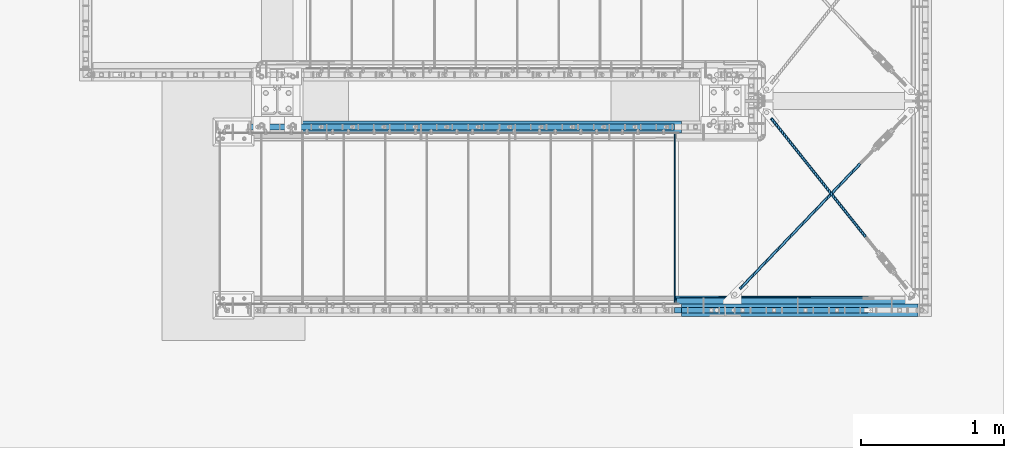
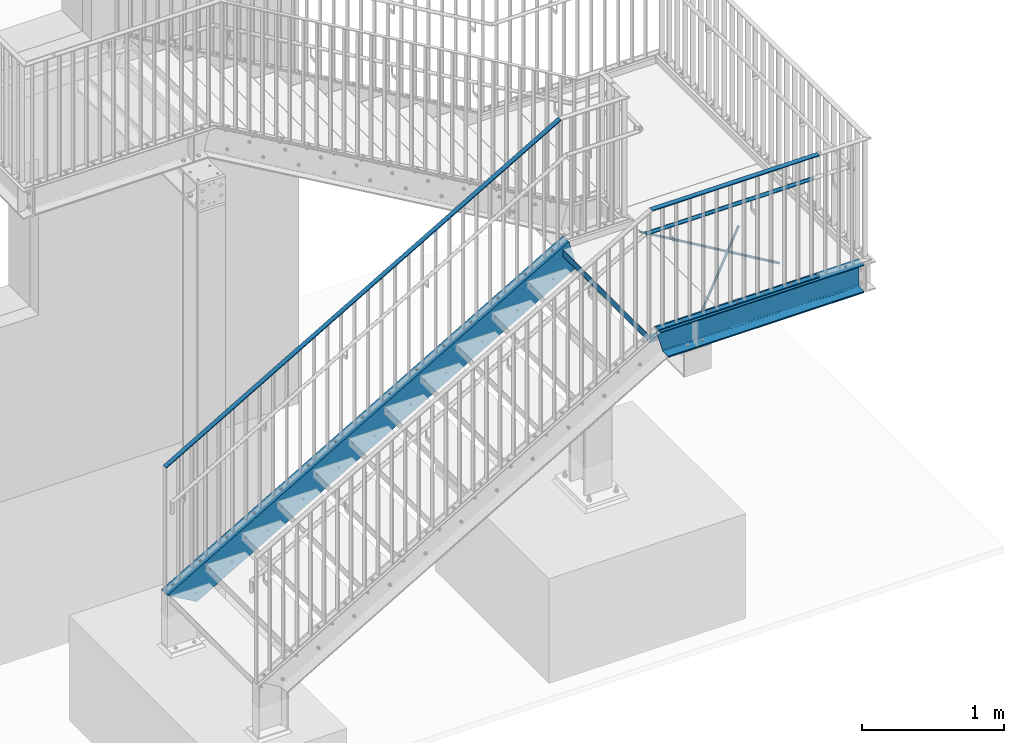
# One storey, part 15 of 145: 8 beams, 2 members, 51 openings.
"""IFC2X3 building model written with IfcOpenShell, lengths in millimetres."""

import ifcopenshell
import ifcopenshell.guid

model = None  # the IFC model being written
_history = None  # IfcOwnerHistory: only IFC2X3 demands one
_inside = {}  # id of a spatial element -> (the spatial element, [elements in it])
_under = {}  # id of a project, library or spatial element -> (it, [spatial elements below it])
_declared = {}  # id of a project -> (the project, [libraries it declares])
_typed = {}  # id of a type object -> (the type object, [elements of that type])
_made_of = {}  # id of a material, layer set ... -> (it, [elements and type objects made of it])


def new_model(schema):
    """Start an empty IFC model of exactly this schema.

    Asked for "IFC4X3", IfcOpenShell would pick the latest addendum, in which some entities
    have other attributes; the version numbers below select the first issue.
    IFC2X3 requires an IfcOwnerHistory on every rooted entity: one is made here for all.
    """
    global model, _history
    if schema == "IFC4X3":
        model = ifcopenshell.file(schema_version=(4, 3, 0, 0))
    else:
        model = ifcopenshell.file(schema=schema)
    _inside.clear()
    _under.clear()
    _declared.clear()
    _typed.clear()
    _made_of.clear()
    _history = None
    if model.schema == "IFC2X3":
        org = make("IfcOrganization", Name="unknown")
        user = make(
            "IfcPersonAndOrganization",
            ThePerson=make("IfcPerson", FamilyName="unknown"),
            TheOrganization=org,
        )
        app = make(
            "IfcApplication",
            ApplicationDeveloper=org,
            Version="unknown",
            ApplicationFullName="unknown",
            ApplicationIdentifier="unknown",
        )
        _history = make(
            "IfcOwnerHistory",
            OwningUser=user,
            OwningApplication=app,
            ChangeAction="ADDED",
            CreationDate=0,
        )
    return model


def make(cls, **values):
    """One entity of the class cls with the attributes given. An attribute that is None is left unset."""
    return model.create_entity(
        cls, **{name: value for name, value in values.items() if value is not None}
    )


def entity(cls, *values):
    """Any entity or typed value of the class cls, its attributes in the order of the schema. None: left unset."""
    e = model.create_entity(cls)
    for i, value in enumerate(values):
        if value is not None:
            e[i] = value
    return e


def rooted(cls, **values):
    """An entity with a GlobalId (a new one), such as an element, a storey or a relation."""
    return make(cls, GlobalId=ifcopenshell.guid.new(), OwnerHistory=_history, **values)


def si_unit(unit_type, name, prefix=None):
    """IfcSIUnit, for example si_unit("LENGTHUNIT", "METRE", prefix="MILLI")."""
    return make("IfcSIUnit", UnitType=unit_type, Prefix=prefix, Name=name)


def converted_unit(unit_type, name, factor, base, dimensions=None, offset=None):
    """IfcConversionBasedUnit, such as the inch: factor (a typed value) times the base unit."""
    return make(
        "IfcConversionBasedUnit"
        if offset is None
        else "IfcConversionBasedUnitWithOffset",
        ConversionOffset=offset,
        Dimensions=None
        if dimensions is None
        else entity("IfcDimensionalExponents", *dimensions),
        UnitType=unit_type,
        Name=name,
        ConversionFactor=make(
            "IfcMeasureWithUnit", ValueComponent=factor, UnitComponent=base
        ),
    )


def assignment(units):
    """IfcUnitAssignment: the units of a project."""
    return None if units is None else make("IfcUnitAssignment", Units=units)


def point(xyz):
    """IfcCartesianPoint."""
    return None if xyz is None else make("IfcCartesianPoint", Coordinates=xyz)


def direction(xyz):
    """IfcDirection."""
    return None if xyz is None else make("IfcDirection", DirectionRatios=xyz)


def frame(location, z_axis=None, x_axis=None):
    """IfcAxis2Placement3D, a coordinate frame: its origin and axes. An axis left out is left unset."""
    return make(
        "IfcAxis2Placement3D",
        Location=point(location),
        Axis=direction(z_axis),
        RefDirection=direction(x_axis),
    )


def frame_2d(location, x_axis=None):
    """IfcAxis2Placement2D, a coordinate frame in the plane: its origin and x axis."""
    return make(
        "IfcAxis2Placement2D", Location=point(location), RefDirection=direction(x_axis)
    )


def origin():
    """The frame at (0, 0, 0) with its axes left unset."""
    return frame((0.0, 0.0, 0.0))


def origin_with_axes():
    """The frame at (0, 0, 0) with the z axis (0, 0, 1) and the x axis (1, 0, 0) written out."""
    return frame((0.0, 0.0, 0.0), z_axis=(0.0, 0.0, 1.0), x_axis=(1.0, 0.0, 0.0))


def origin_2d():
    """The frame at (0, 0) in the plane with its x axis left unset."""
    return frame_2d((0.0, 0.0))


def origin_2d_with_axis():
    """The frame at (0, 0) in the plane with the x axis (1, 0) written out."""
    return frame_2d((0.0, 0.0), x_axis=(1.0, 0.0))


def place(relative_to, where):
    """IfcLocalPlacement: puts the frame where relative to a parent placement (None: the world)."""
    return make(
        "IfcLocalPlacement", PlacementRelTo=relative_to, RelativePlacement=where
    )


def context(
    kind, dimensions, precision=None, world=None, true_north=None, identifier=None
):
    """IfcGeometricRepresentationContext, for example the 3D "Model" context."""
    return make(
        "IfcGeometricRepresentationContext",
        ContextIdentifier=identifier,
        ContextType=kind,
        CoordinateSpaceDimension=dimensions,
        Precision=precision,
        WorldCoordinateSystem=world,
        TrueNorth=true_north,
    )


def project(units=None, contexts=None):
    """IfcProject with its units and contexts."""
    return rooted(
        "IfcProject",
        Name="project",
        RepresentationContexts=contexts,
        UnitsInContext=assignment(units),
    )


def spatial(cls, under=None, at=None, **own):
    """A site, building, storey or space (cls), placed at a placement, below another one or the project."""
    s = rooted(cls, ObjectPlacement=at, **own)
    if under is not None:
        _under.setdefault(under.id(), (under, []))[1].append(s)
    return s


def polyline(points):
    """IfcPolyline through the points."""
    return make("IfcPolyline", Points=[point(p) for p in points])


def profile(cls, at=None, kind="AREA", **sizes):
    """A parametric profile (cls). Its sizes go by their IFC names, for example OverallWidth=200.0."""
    return make(cls, ProfileType=kind, Position=at, **sizes)


def rectangle(**sizes):
    """IfcRectangleProfileDef."""
    return profile("IfcRectangleProfileDef", **sizes)


def circle(**sizes):
    """IfcCircleProfileDef."""
    return profile("IfcCircleProfileDef", **sizes)


def hollow_circle(**sizes):
    """IfcCircleHollowProfileDef."""
    return profile("IfcCircleHollowProfileDef", **sizes)


def l_section(**sizes):
    """IfcLShapeProfileDef."""
    return profile("IfcLShapeProfileDef", **sizes)


def u_section(**sizes):
    """IfcUShapeProfileDef."""
    return profile("IfcUShapeProfileDef", **sizes)


def outline(outer, holes=None, kind="AREA"):
    """IfcArbitraryClosedProfileDef: a profile drawn as a closed curve; with holes, ...WithVoids."""
    if holes is None:
        return make("IfcArbitraryClosedProfileDef", ProfileType=kind, OuterCurve=outer)
    return make(
        "IfcArbitraryProfileDefWithVoids",
        ProfileType=kind,
        OuterCurve=outer,
        InnerCurves=holes,
    )


def extrude(swept, where, along, depth):
    """IfcExtrudedAreaSolid: the profile swept, set in the frame where, extruded along a direction by depth."""
    return make(
        "IfcExtrudedAreaSolid",
        SweptArea=swept,
        Position=where,
        ExtrudedDirection=direction(along),
        Depth=depth,
    )


def clip(a, b, op="DIFFERENCE"):
    """IfcBooleanClippingResult: the solid a cut by the half space b."""
    return make(
        "IfcBooleanClippingResult", Operator=op, FirstOperand=a, SecondOperand=b
    )


def halfspace(plane, agree):
    """IfcHalfSpaceSolid: all space on one side of the plane z = 0 of the frame plane."""
    return make(
        "IfcHalfSpaceSolid",
        BaseSurface=make("IfcPlane", Position=plane),
        AgreementFlag=agree,
    )


def shape(context_of_items, identifier, shape_type, items):
    """IfcShapeRepresentation: the items that make up one representation, for example the "Body"."""
    return make(
        "IfcShapeRepresentation",
        ContextOfItems=context_of_items,
        RepresentationIdentifier=identifier,
        RepresentationType=shape_type,
        Items=items,
    )


def material(Name=None, Category=None):
    """IfcMaterial."""
    return make("IfcMaterial", Name=Name, Category=Category)


def made_of(thing, what):
    """Note that an element or type object is made of a material, layer set ...; save() writes the relation."""
    if what is not None:
        _made_of.setdefault(what.id(), (what, []))[1].append(thing)
    return thing


def element(
    cls,
    number,
    at=None,
    inside=None,
    cuts=None,
    type_object=None,
    material=None,
    context=None,
    identifier="Body",
    shape_type=None,
    held_by="IfcProductDefinitionShape",
    body=None,
    shapes=None,
    **own,
):
    """One element of the class cls, such as IfcWall. Its Tag is "e" and its number.

    at: its placement. inside: the storey or other place that contains it. cuts: it is an
    opening in that element (IfcRelVoidsElement). A single representation is given by context,
    identifier, shape_type and body (its items); several are given by shapes. held_by: the class
    of the entity that holds the representations. save() writes the other relations.
    """
    e = rooted(cls, Tag="e%d" % number, ObjectPlacement=at, **own)
    if body is not None:
        shapes = [shape(context, identifier, shape_type, body)]
    if shapes is not None:
        e.Representation = make(held_by, Representations=shapes)
    if inside is not None:
        _inside.setdefault(inside.id(), (inside, []))[1].append(e)
    if cuts is not None:
        rooted(
            "IfcRelVoidsElement", RelatingBuildingElement=cuts, RelatedOpeningElement=e
        )
    if type_object is not None:
        _typed.setdefault(type_object.id(), (type_object, []))[1].append(e)
    return made_of(e, material)


def aggregate(whole, parts):
    """IfcRelAggregates: a whole, such as a stair, and the parts it consists of."""
    return rooted("IfcRelAggregates", RelatingObject=whole, RelatedObjects=parts)


def save(model, path):
    """Write the relations noted so far, then the file.

    IfcRelAggregates (storeys below a building ...), IfcRelContainedInSpatialStructure (elements
    in a storey), IfcRelDefinesByType, IfcRelAssociatesMaterial and IfcRelDeclares: one each for
    every whole, place, type object, material and project.
    """
    for whole, parts in _under.values():
        aggregate(whole, parts)
    for where, things in _inside.values():
        rooted(
            "IfcRelContainedInSpatialStructure",
            RelatedElements=things,
            RelatingStructure=where,
        )
    for kind, things in _typed.values():
        rooted("IfcRelDefinesByType", RelatedObjects=things, RelatingType=kind)
    for what, things in _made_of.values():
        rooted("IfcRelAssociatesMaterial", RelatedObjects=things, RelatingMaterial=what)
    for by, libraries in _declared.values():
        rooted("IfcRelDeclares", RelatingContext=by, RelatedDefinitions=libraries)
    model.write(path)


model = new_model("IFC2X3")

# Units and contexts
model_context = context("Model", 3, precision=1e-09, world=origin_with_axes())
ifc_project = project(units=[si_unit("LENGTHUNIT", "METRE", prefix="MILLI"), si_unit("AREAUNIT", "SQUARE_METRE"), si_unit("VOLUMEUNIT", "CUBIC_METRE"), converted_unit("PLANEANGLEUNIT", "DEGREE", entity("IfcPlaneAngleMeasure", 0.01745329), si_unit("PLANEANGLEUNIT", "RADIAN"), dimensions=[0, 0, 0, 0, 0, 0, 0])], contexts=[model_context])

# Site, building, storey
site_placement = place(None, origin_with_axes())
site = spatial("IfcSite", under=ifc_project, at=site_placement, Name="BZ1 Grund- und Mittelschule 85716 Unterschlei?heim", CompositionType="ELEMENT")
building_placement = place(site_placement, origin_with_axes())
building = spatial("IfcBuilding", under=site, at=building_placement, Name="Struktur 1", CompositionType="ELEMENT")
storey_placement = place(building_placement, origin_with_axes())
storey = spatial("IfcBuildingStorey", under=building, at=storey_placement, Name="Default Storey", CompositionType="ELEMENT", Elevation=0.0)

# Beams
ifc_material_1 = material(Name="S235JR")
beam_1_placement = place(None, frame((21156.772425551, -2135.739882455, 1438.6363644), z_axis=(0.692926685, 0.721008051, 0.0), x_axis=(-0.721008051, 0.692926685, 0.0)))
element("IfcBeam", 1, at=beam_1_placement, inside=storey, material=ifc_material_1, Name="-", ObjectType="-", context=model_context, shape_type="SweptSolid", body=[
    extrude(circle(Radius=10.0, at=origin_2d()), origin(), (0.0, 0.0, -1.0), 1218.597548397),
])
beam_2_placement = place(None, frame((21195.182131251, -2648.355128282, 1418.6363644), z_axis=(-0.623020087, 0.782205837, 0.0), x_axis=(-0.782205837, -0.623020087, 0.0)))
element("IfcBeam", 2, at=beam_2_placement, inside=storey, material=ifc_material_1, Name="-", ObjectType="-", context=model_context, shape_type="SweptSolid", body=[
    extrude(circle(Radius=10.0, at=origin_2d()), origin(), (0.0, 0.0, 1.0), 1063.779710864),
])
beam_3_placement = place(None, frame((19834.499463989, -3162.502, 2659.6363644), z_axis=(-1.0, 0.0, 0.0), x_axis=(0.0, 0.0, -1.0)))
element("IfcBeam", 3, at=beam_3_placement, inside=storey, material=ifc_material_1, Name="-", ObjectType="-", context=model_context, shape_type="Clipping", body=[
    clip(extrude(rectangle(XDim=8.0, YDim=40.0, at=origin_2d()), origin(), (0.0, 0.0, -1.0), 1378.046429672), halfspace(frame((-2511.22209615, -3162.502, 655.941852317), z_axis=(-0.260320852, 0.0, -0.965522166), x_axis=(0.0, -1.0, 0.0)), True)),
])

# Beam, openings
beam_4_placement = place(None, frame((19883.932827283, -3162.502, 1617.636364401), z_axis=(-1.0, 0.0, 0.0), x_axis=(0.0, 0.0, -1.0)))
beam_4 = element("IfcBeam", 4, at=beam_4_placement, inside=storey, material=ifc_material_1, Name="-", ObjectType="-", context=model_context, shape_type="Clipping", body=[
    clip(extrude(rectangle(XDim=8.0, YDim=40.0, at=origin_2d()), origin(), (0.0, 0.0, -1.0), 1328.613066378), halfspace(frame((-3495.033794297, -3162.502, 921.193866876), z_axis=(-0.260320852, 0.0, -0.965522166), x_axis=(0.0, -1.0, 0.0)), True)),
])
opening_1_placement = place(beam_4_placement, frame((4.5, 0.0, -229.613066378), z_axis=(-1.0, 0.0, 0.0), x_axis=(0.0, 0.0, -1.0)))
element("IfcOpeningElement", 5, at=opening_1_placement, cuts=beam_4, ObjectType="Opening", context=model_context, shape_type="SweptSolid", body=[
    extrude(circle(Radius=7.501, at=origin_2d_with_axis()), origin(), (0.0, 0.0, 1.0), 9.0),
])
opening_2_placement = place(beam_4_placement, frame((4.5, 0.0, -449.613066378), z_axis=(-1.0, 0.0, 0.0), x_axis=(0.0, 0.0, -1.0)))
element("IfcOpeningElement", 6, at=opening_2_placement, cuts=beam_4, ObjectType="Opening", context=model_context, shape_type="SweptSolid", body=[
    extrude(circle(Radius=7.501, at=origin_2d_with_axis()), origin(), (0.0, 0.0, 1.0), 9.0),
])
opening_3_placement = place(beam_4_placement, frame((4.5, 0.0, -669.613066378), z_axis=(-1.0, 0.0, 0.0), x_axis=(0.0, 0.0, -1.0)))
element("IfcOpeningElement", 7, at=opening_3_placement, cuts=beam_4, ObjectType="Opening", context=model_context, shape_type="SweptSolid", body=[
    extrude(circle(Radius=7.501, at=origin_2d_with_axis()), origin(), (0.0, 0.0, 1.0), 9.0),
])
opening_4_placement = place(beam_4_placement, frame((4.5, 0.0, -889.613066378), z_axis=(-1.0, 0.0, 0.0), x_axis=(0.0, 0.0, -1.0)))
element("IfcOpeningElement", 8, at=opening_4_placement, cuts=beam_4, ObjectType="Opening", context=model_context, shape_type="SweptSolid", body=[
    extrude(circle(Radius=7.501, at=origin_2d_with_axis()), origin(), (0.0, 0.0, 1.0), 9.0),
])
opening_5_placement = place(beam_4_placement, frame((4.5, 0.0, -1109.613066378), z_axis=(-1.0, 0.0, 0.0), x_axis=(0.0, 0.0, -1.0)))
element("IfcOpeningElement", 9, at=opening_5_placement, cuts=beam_4, ObjectType="Opening", context=model_context, shape_type="SweptSolid", body=[
    extrude(circle(Radius=7.501, at=origin_2d_with_axis()), origin(), (0.0, 0.0, 1.0), 9.0),
])
opening_6_placement = place(beam_4_placement, frame((4.5, 0.0, -1329.613066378), z_axis=(-1.0, 0.0, 0.0), x_axis=(0.0, 0.0, -1.0)))
element("IfcOpeningElement", 10, at=opening_6_placement, cuts=beam_4, ObjectType="Opening", context=model_context, shape_type="SweptSolid", body=[
    extrude(circle(Radius=7.501, at=origin_2d_with_axis()), origin(), (0.0, 0.0, 1.0), 9.0),
])

# Beam
ifc_material_2 = material(Name="1.4301")
beam_5_placement = place(None, frame((19836.61894234, -3077.502, 2398.636364), z_axis=(-1.0, 0.0, 0.0), x_axis=(0.0, 0.0, -1.0)))
element("IfcBeam", 11, at=beam_5_placement, inside=storey, material=ifc_material_2, Name="-", ObjectType="-", context=model_context, shape_type="Clipping", body=[
    clip(extrude(hollow_circle(Radius=15.0, WallThickness=2.0, at=origin_2d()), origin(), (0.0, 0.0, -1.0), 1376.92695132), halfspace(frame((-2755.280359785, -3077.502, 720.897719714), z_axis=(-0.260320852, 0.0, -0.965522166), x_axis=(0.0, -1.0, 0.0)), True)),
])

# Member, openings
member_1_placement = place(None, frame((16593.104863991, -1897.702, -451.720644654), z_axis=(-0.864466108, 0.0, -0.502691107), x_axis=(0.0, 1.0, 0.0)))
member_1 = element("IfcMember", 12, at=member_1_placement, inside=storey, material=ifc_material_1, Name="-", ObjectType="-", context=model_context, shape_type="Clipping", body=[
    clip(clip(extrude(u_section(Depth=240.0, FlangeWidth=85.0, WebThickness=9.5, FlangeThickness=13.0, FilletRadius=13.0, EdgeRadius=6.5, FlangeSlope=4.574, at=frame_2d((20.2, 0.0))), origin(), (0.0, 0.0, -1.0), 4047.92775273), halfspace(frame((1897.702, -12748.12491435, 7135.403351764), z_axis=(0.0, -0.498652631, -0.866801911), x_axis=(1.0, 0.0, 0.0)), True)), halfspace(frame((1897.702, -3619.033794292, -4845.636203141), z_axis=(0.0, -0.260320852, 0.965522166), x_axis=(-1.0, 0.0, 0.0)), True)),
])
opening_7_placement = place(member_1_placement, frame((20.2, -106.5, -1222.154407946), z_axis=(0.0, 1.0, 0.0), x_axis=(-1.0, 0.0, 0.0)))
element("IfcOpeningElement", 13, at=opening_7_placement, cuts=member_1, ObjectType="Opening", context=model_context, shape_type="SweptSolid", body=[
    extrude(circle(Radius=7.001, at=frame_2d((0.0, -7.001), x_axis=(1.0, 0.0))), origin(), (0.0, 0.0, -1.0), 14.0),
])
opening_8_placement = place(member_1_placement, frame((20.2, -106.5, -713.169152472), z_axis=(0.0, 1.0, 0.0), x_axis=(-1.0, 0.0, 0.0)))
element("IfcOpeningElement", 14, at=opening_8_placement, cuts=member_1, ObjectType="Opening", context=model_context, shape_type="SweptSolid", body=[
    extrude(circle(Radius=7.001, at=frame_2d((0.0, -7.001), x_axis=(1.0, 0.0))), origin(), (0.0, 0.0, -1.0), 14.0),
])
opening_9_placement = place(member_1_placement, frame((-12.3, 58.965673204, -1638.929511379), z_axis=(1.0, 0.0, 0.0), x_axis=(0.0, 1.0, 0.0)))
element("IfcOpeningElement", 15, at=opening_9_placement, cuts=member_1, ObjectType="Opening", context=model_context, shape_type="SweptSolid", body=[
    extrude(circle(Radius=7.001, at=frame_2d((-6.05212722, -3.519340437), x_axis=(1.0, 0.0))), origin(), (0.0, 0.0, -1.0), 10.5),
])
opening_10_placement = place(member_1_placement, frame((-12.3, 58.965673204, -2645.331025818), z_axis=(1.0, 0.0, 0.0), x_axis=(0.0, 1.0, 0.0)))
element("IfcOpeningElement", 16, at=opening_10_placement, cuts=member_1, ObjectType="Opening", context=model_context, shape_type="SweptSolid", body=[
    extrude(circle(Radius=7.001, at=frame_2d((-6.05212722, -3.519340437), x_axis=(1.0, 0.0))), origin(), (0.0, 0.0, -1.0), 10.5),
])
opening_11_placement = place(member_1_placement, frame((-12.3, -31.518725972, -1147.858440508), z_axis=(1.0, 0.0, 0.0), x_axis=(0.0, 1.0, 0.0)))
element("IfcOpeningElement", 17, at=opening_11_placement, cuts=member_1, ObjectType="Opening", context=model_context, shape_type="SweptSolid", body=[
    extrude(circle(Radius=7.001, at=frame_2d((-6.05212722, -3.519340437), x_axis=(1.0, 0.0))), origin(), (0.0, 0.0, -1.0), 10.5),
])
opening_12_placement = place(member_1_placement, frame((20.2, -106.5, -3003.601348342), z_axis=(0.0, 1.0, 0.0), x_axis=(-1.0, 0.0, 0.0)))
element("IfcOpeningElement", 18, at=opening_12_placement, cuts=member_1, ObjectType="Opening", context=model_context, shape_type="SweptSolid", body=[
    extrude(circle(Radius=7.001, at=frame_2d((0.0, -7.001), x_axis=(1.0, 0.0))), origin(), (0.0, 0.0, -1.0), 14.0),
])
opening_13_placement = place(member_1_placement, frame((20.2, -106.5, -204.184478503), z_axis=(0.0, 1.0, 0.0), x_axis=(-1.0, 0.0, 0.0)))
element("IfcOpeningElement", 19, at=opening_13_placement, cuts=member_1, ObjectType="Opening", context=model_context, shape_type="SweptSolid", body=[
    extrude(circle(Radius=7.001, at=frame_2d((0.0, -7.001), x_axis=(1.0, 0.0))), origin(), (0.0, 0.0, -1.0), 14.0),
])
opening_14_placement = place(member_1_placement, frame((20.2, -106.5, -1476.64674493), z_axis=(0.0, 1.0, 0.0), x_axis=(-1.0, 0.0, 0.0)))
element("IfcOpeningElement", 20, at=opening_14_placement, cuts=member_1, ObjectType="Opening", context=model_context, shape_type="SweptSolid", body=[
    extrude(circle(Radius=7.001, at=frame_2d((0.0, -7.001), x_axis=(1.0, 0.0))), origin(), (0.0, 0.0, -1.0), 14.0),
])
opening_15_placement = place(member_1_placement, frame((-12.3, 58.965673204, -1974.396682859), z_axis=(1.0, 0.0, 0.0), x_axis=(0.0, 1.0, 0.0)))
element("IfcOpeningElement", 21, at=opening_15_placement, cuts=member_1, ObjectType="Opening", context=model_context, shape_type="SweptSolid", body=[
    extrude(circle(Radius=7.001, at=frame_2d((-6.05212722, -3.519340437), x_axis=(1.0, 0.0))), origin(), (0.0, 0.0, -1.0), 10.5),
])
opening_16_placement = place(member_1_placement, frame((20.2, -106.5, -1731.13966342), z_axis=(0.0, 1.0, 0.0), x_axis=(-1.0, 0.0, 0.0)))
element("IfcOpeningElement", 22, at=opening_16_placement, cuts=member_1, ObjectType="Opening", context=model_context, shape_type="SweptSolid", body=[
    extrude(circle(Radius=7.001, at=frame_2d((0.0, -7.001), x_axis=(1.0, 0.0))), origin(), (0.0, 0.0, -1.0), 14.0),
])
opening_17_placement = place(member_1_placement, frame((-12.3, -31.518725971, -476.924097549), z_axis=(1.0, 0.0, 0.0), x_axis=(0.0, 1.0, 0.0)))
element("IfcOpeningElement", 23, at=opening_17_placement, cuts=member_1, ObjectType="Opening", context=model_context, shape_type="SweptSolid", body=[
    extrude(circle(Radius=7.001, at=frame_2d((-6.05212722, -3.519340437), x_axis=(1.0, 0.0))), origin(), (0.0, 0.0, -1.0), 10.5),
])
opening_18_placement = place(member_1_placement, frame((20.2, -106.5, -2749.109592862), z_axis=(0.0, 1.0, 0.0), x_axis=(-1.0, 0.0, 0.0)))
element("IfcOpeningElement", 24, at=opening_18_placement, cuts=member_1, ObjectType="Opening", context=model_context, shape_type="SweptSolid", body=[
    extrude(circle(Radius=7.001, at=frame_2d((0.0, -7.001), x_axis=(1.0, 0.0))), origin(), (0.0, 0.0, -1.0), 14.0),
])
opening_19_placement = place(member_1_placement, frame((-12.3, 58.965673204, -2980.798197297), z_axis=(1.0, 0.0, 0.0), x_axis=(0.0, 1.0, 0.0)))
element("IfcOpeningElement", 25, at=opening_19_placement, cuts=member_1, ObjectType="Opening", context=model_context, shape_type="SweptSolid", body=[
    extrude(circle(Radius=7.001, at=frame_2d((-6.05212722, -3.519340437), x_axis=(1.0, 0.0))), origin(), (0.0, 0.0, -1.0), 10.5),
])
opening_20_placement = place(member_1_placement, frame((-12.3, -31.518725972, -2825.194297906), z_axis=(1.0, 0.0, 0.0), x_axis=(0.0, 1.0, 0.0)))
element("IfcOpeningElement", 26, at=opening_20_placement, cuts=member_1, ObjectType="Opening", context=model_context, shape_type="SweptSolid", body=[
    extrude(circle(Radius=7.001, at=frame_2d((-6.05212722, -3.519340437), x_axis=(1.0, 0.0))), origin(), (0.0, 0.0, -1.0), 10.5),
])
opening_21_placement = place(member_1_placement, frame((-12.3, -31.518725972, -1818.792783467), z_axis=(1.0, 0.0, 0.0), x_axis=(0.0, 1.0, 0.0)))
element("IfcOpeningElement", 27, at=opening_21_placement, cuts=member_1, ObjectType="Opening", context=model_context, shape_type="SweptSolid", body=[
    extrude(circle(Radius=7.001, at=frame_2d((-6.05212722, -3.519340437), x_axis=(1.0, 0.0))), origin(), (0.0, 0.0, -1.0), 10.5),
])
opening_22_placement = place(member_1_placement, frame((20.2, -106.5, -3512.586603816), z_axis=(0.0, 1.0, 0.0), x_axis=(-1.0, 0.0, 0.0)))
element("IfcOpeningElement", 28, at=opening_22_placement, cuts=member_1, ObjectType="Opening", context=model_context, shape_type="SweptSolid", body=[
    extrude(circle(Radius=7.001, at=frame_2d((0.0, -7.001), x_axis=(1.0, 0.0))), origin(), (0.0, 0.0, -1.0), 14.0),
])
opening_23_placement = place(member_1_placement, frame((-12.3, -31.518725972, -3496.128640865), z_axis=(1.0, 0.0, 0.0), x_axis=(0.0, 1.0, 0.0)))
element("IfcOpeningElement", 29, at=opening_23_placement, cuts=member_1, ObjectType="Opening", context=model_context, shape_type="SweptSolid", body=[
    extrude(circle(Radius=7.001, at=frame_2d((-6.05212722, -3.519340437), x_axis=(1.0, 0.0))), origin(), (0.0, 0.0, -1.0), 10.5),
])
opening_24_placement = place(member_1_placement, frame((20.2, -106.5, -3767.079522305), z_axis=(0.0, 1.0, 0.0), x_axis=(-1.0, 0.0, 0.0)))
element("IfcOpeningElement", 30, at=opening_24_placement, cuts=member_1, ObjectType="Opening", context=model_context, shape_type="SweptSolid", body=[
    extrude(circle(Radius=7.001, at=frame_2d((0.0, -7.001), x_axis=(1.0, 0.0))), origin(), (0.0, 0.0, -1.0), 14.0),
])
opening_25_placement = place(member_1_placement, frame((-12.3, 58.965673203, -3651.732540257), z_axis=(1.0, 0.0, 0.0), x_axis=(0.0, 1.0, 0.0)))
element("IfcOpeningElement", 31, at=opening_25_placement, cuts=member_1, ObjectType="Opening", context=model_context, shape_type="SweptSolid", body=[
    extrude(circle(Radius=7.001, at=frame_2d((-6.05212722, -3.519340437), x_axis=(1.0, 0.0))), origin(), (0.0, 0.0, -1.0), 10.5),
])
opening_26_placement = place(member_1_placement, frame((-12.3, -31.518725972, -2154.259954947), z_axis=(1.0, 0.0, 0.0), x_axis=(0.0, 1.0, 0.0)))
element("IfcOpeningElement", 32, at=opening_26_placement, cuts=member_1, ObjectType="Opening", context=model_context, shape_type="SweptSolid", body=[
    extrude(circle(Radius=7.001, at=frame_2d((-6.05212722, -3.519340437), x_axis=(1.0, 0.0))), origin(), (0.0, 0.0, -1.0), 10.5),
])
opening_27_placement = place(member_1_placement, frame((20.2, -106.5, -3258.093685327), z_axis=(0.0, 1.0, 0.0), x_axis=(-1.0, 0.0, 0.0)))
element("IfcOpeningElement", 33, at=opening_27_placement, cuts=member_1, ObjectType="Opening", context=model_context, shape_type="SweptSolid", body=[
    extrude(circle(Radius=7.001, at=frame_2d((0.0, -7.001), x_axis=(1.0, 0.0))), origin(), (0.0, 0.0, -1.0), 14.0),
])
opening_28_placement = place(member_1_placement, frame((20.2, -106.5, -2240.124337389), z_axis=(0.0, 1.0, 0.0), x_axis=(-1.0, 0.0, 0.0)))
element("IfcOpeningElement", 34, at=opening_28_placement, cuts=member_1, ObjectType="Opening", context=model_context, shape_type="SweptSolid", body=[
    extrude(circle(Radius=7.001, at=frame_2d((0.0, -7.001), x_axis=(1.0, 0.0))), origin(), (0.0, 0.0, -1.0), 14.0),
])
opening_29_placement = place(member_1_placement, frame((-12.3, 58.965673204, -2309.863854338), z_axis=(1.0, 0.0, 0.0), x_axis=(0.0, 1.0, 0.0)))
element("IfcOpeningElement", 35, at=opening_29_placement, cuts=member_1, ObjectType="Opening", context=model_context, shape_type="SweptSolid", body=[
    extrude(circle(Radius=7.001, at=frame_2d((-6.05212722, -3.519340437), x_axis=(1.0, 0.0))), origin(), (0.0, 0.0, -1.0), 10.5),
])
opening_30_placement = place(member_1_placement, frame((-12.3, 58.965673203, -3316.265368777), z_axis=(1.0, 0.0, 0.0), x_axis=(0.0, 1.0, 0.0)))
element("IfcOpeningElement", 36, at=opening_30_placement, cuts=member_1, ObjectType="Opening", context=model_context, shape_type="SweptSolid", body=[
    extrude(circle(Radius=7.001, at=frame_2d((-6.05212722, -3.519340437), x_axis=(1.0, 0.0))), origin(), (0.0, 0.0, -1.0), 10.5),
])
opening_31_placement = place(member_1_placement, frame((20.2, -106.5, -2494.617255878), z_axis=(0.0, 1.0, 0.0), x_axis=(-1.0, 0.0, 0.0)))
element("IfcOpeningElement", 37, at=opening_31_placement, cuts=member_1, ObjectType="Opening", context=model_context, shape_type="SweptSolid", body=[
    extrude(circle(Radius=7.001, at=frame_2d((0.0, -7.001), x_axis=(1.0, 0.0))), origin(), (0.0, 0.0, -1.0), 14.0),
])
opening_32_placement = place(member_1_placement, frame((-12.3, 58.965673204, -297.060825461), z_axis=(1.0, 0.0, 0.0), x_axis=(0.0, 1.0, 0.0)))
element("IfcOpeningElement", 38, at=opening_32_placement, cuts=member_1, ObjectType="Opening", context=model_context, shape_type="SweptSolid", body=[
    extrude(circle(Radius=7.001, at=frame_2d((-6.05212722, -3.519340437), x_axis=(1.0, 0.0))), origin(), (0.0, 0.0, -1.0), 10.5),
])
opening_33_placement = place(member_1_placement, frame((-12.3, -31.518725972, -3160.661469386), z_axis=(1.0, 0.0, 0.0), x_axis=(0.0, 1.0, 0.0)))
element("IfcOpeningElement", 39, at=opening_33_placement, cuts=member_1, ObjectType="Opening", context=model_context, shape_type="SweptSolid", body=[
    extrude(circle(Radius=7.001, at=frame_2d((-6.05212722, -3.519340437), x_axis=(1.0, 0.0))), origin(), (0.0, 0.0, -1.0), 10.5),
])
opening_34_placement = place(member_1_placement, frame((-12.3, 58.965673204, -967.99516842), z_axis=(1.0, 0.0, 0.0), x_axis=(0.0, 1.0, 0.0)))
element("IfcOpeningElement", 40, at=opening_34_placement, cuts=member_1, ObjectType="Opening", context=model_context, shape_type="SweptSolid", body=[
    extrude(circle(Radius=7.001, at=frame_2d((-6.05212722, -3.519340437), x_axis=(1.0, 0.0))), origin(), (0.0, 0.0, -1.0), 10.5),
])
opening_35_placement = place(member_1_placement, frame((-12.3, -31.518725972, -812.391269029), z_axis=(1.0, 0.0, 0.0), x_axis=(0.0, 1.0, 0.0)))
element("IfcOpeningElement", 41, at=opening_35_placement, cuts=member_1, ObjectType="Opening", context=model_context, shape_type="SweptSolid", body=[
    extrude(circle(Radius=7.001, at=frame_2d((-6.05212722, -3.519340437), x_axis=(1.0, 0.0))), origin(), (0.0, 0.0, -1.0), 10.5),
])
opening_36_placement = place(member_1_placement, frame((-12.3, -31.518725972, -2489.727126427), z_axis=(1.0, 0.0, 0.0), x_axis=(0.0, 1.0, 0.0)))
element("IfcOpeningElement", 42, at=opening_36_placement, cuts=member_1, ObjectType="Opening", context=model_context, shape_type="SweptSolid", body=[
    extrude(circle(Radius=7.001, at=frame_2d((-6.05212722, -3.519340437), x_axis=(1.0, 0.0))), origin(), (0.0, 0.0, -1.0), 10.5),
])
opening_37_placement = place(member_1_placement, frame((20.2, -106.5, -1985.631418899), z_axis=(0.0, 1.0, 0.0), x_axis=(-1.0, 0.0, 0.0)))
element("IfcOpeningElement", 43, at=opening_37_placement, cuts=member_1, ObjectType="Opening", context=model_context, shape_type="SweptSolid", body=[
    extrude(circle(Radius=7.001, at=frame_2d((0.0, -7.001), x_axis=(1.0, 0.0))), origin(), (0.0, 0.0, -1.0), 14.0),
])
opening_38_placement = place(member_1_placement, frame((20.2, -106.5, -458.676815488), z_axis=(0.0, 1.0, 0.0), x_axis=(-1.0, 0.0, 0.0)))
element("IfcOpeningElement", 44, at=opening_38_placement, cuts=member_1, ObjectType="Opening", context=model_context, shape_type="SweptSolid", body=[
    extrude(circle(Radius=7.001, at=frame_2d((0.0, -7.001), x_axis=(1.0, 0.0))), origin(), (0.0, 0.0, -1.0), 14.0),
])
opening_39_placement = place(member_1_placement, frame((-12.3, 58.965673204, -1303.4623399), z_axis=(1.0, 0.0, 0.0), x_axis=(0.0, 1.0, 0.0)))
element("IfcOpeningElement", 45, at=opening_39_placement, cuts=member_1, ObjectType="Opening", context=model_context, shape_type="SweptSolid", body=[
    extrude(circle(Radius=7.001, at=frame_2d((-6.05212722, -3.519340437), x_axis=(1.0, 0.0))), origin(), (0.0, 0.0, -1.0), 10.5),
])
opening_40_placement = place(member_1_placement, frame((20.2, -106.5, -967.662070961), z_axis=(0.0, 1.0, 0.0), x_axis=(-1.0, 0.0, 0.0)))
element("IfcOpeningElement", 46, at=opening_40_placement, cuts=member_1, ObjectType="Opening", context=model_context, shape_type="SweptSolid", body=[
    extrude(circle(Radius=7.001, at=frame_2d((0.0, -7.001), x_axis=(1.0, 0.0))), origin(), (0.0, 0.0, -1.0), 14.0),
])
opening_41_placement = place(member_1_placement, frame((-12.3, 58.965673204, -632.527996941), z_axis=(1.0, 0.0, 0.0), x_axis=(0.0, 1.0, 0.0)))
element("IfcOpeningElement", 47, at=opening_41_placement, cuts=member_1, ObjectType="Opening", context=model_context, shape_type="SweptSolid", body=[
    extrude(circle(Radius=7.001, at=frame_2d((-6.05212722, -3.519340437), x_axis=(1.0, 0.0))), origin(), (0.0, 0.0, -1.0), 10.5),
])
opening_42_placement = place(member_1_placement, frame((-12.3, -31.518725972, -1483.325611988), z_axis=(1.0, 0.0, 0.0), x_axis=(0.0, 1.0, 0.0)))
element("IfcOpeningElement", 48, at=opening_42_placement, cuts=member_1, ObjectType="Opening", context=model_context, shape_type="SweptSolid", body=[
    extrude(circle(Radius=7.001, at=frame_2d((-6.05212722, -3.519340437), x_axis=(1.0, 0.0))), origin(), (0.0, 0.0, -1.0), 10.5),
])

# Beam, openings
beam_6_placement = place(None, frame((19760.447410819, -3142.302, 1493.6363644), z_axis=(-1.0, 0.0, 0.0), x_axis=(0.0, -1.0, 0.0)))
beam_6 = element("IfcBeam", 49, at=beam_6_placement, inside=storey, material=ifc_material_1, Name="-", ObjectType="-", context=model_context, shape_type="Clipping", body=[
    clip(extrude(u_section(Depth=240.0, FlangeWidth=85.0, WebThickness=9.5, FlangeThickness=13.0, FilletRadius=13.0, EdgeRadius=6.5, FlangeSlope=4.574, at=frame_2d((20.2, 0.0))), origin(), (0.0, 0.0, -1.0), 1800.397316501), halfspace(frame((-3142.302, 3619.033794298, 797.708450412), z_axis=(0.0, 0.260320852, -0.965522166), x_axis=(-1.0, 0.0, 0.0)), True)),
])
opening_43_placement = place(beam_6_placement, frame((20.2, 106.5, -353.098482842), z_axis=(0.0, 1.0, 0.0), x_axis=(0.0, 0.0, -1.0)))
element("IfcOpeningElement", 50, at=opening_43_placement, cuts=beam_6, ObjectType="Opening", context=model_context, shape_type="SweptSolid", body=[
    extrude(circle(Radius=7.001, at=origin_2d_with_axis()), origin(), (0.0, 0.0, 1.0), 14.0),
])
opening_44_placement = place(beam_6_placement, frame((20.2, 106.5, -573.098482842), z_axis=(0.0, 1.0, 0.0), x_axis=(0.0, 0.0, -1.0)))
element("IfcOpeningElement", 51, at=opening_44_placement, cuts=beam_6, ObjectType="Opening", context=model_context, shape_type="SweptSolid", body=[
    extrude(circle(Radius=7.001, at=origin_2d_with_axis()), origin(), (0.0, 0.0, 1.0), 14.0),
])
opening_45_placement = place(beam_6_placement, frame((20.2, 106.5, -793.098482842), z_axis=(0.0, 1.0, 0.0), x_axis=(0.0, 0.0, -1.0)))
element("IfcOpeningElement", 52, at=opening_45_placement, cuts=beam_6, ObjectType="Opening", context=model_context, shape_type="SweptSolid", body=[
    extrude(circle(Radius=7.001, at=origin_2d_with_axis()), origin(), (0.0, 0.0, 1.0), 14.0),
])
opening_46_placement = place(beam_6_placement, frame((20.2, 106.5, -1013.098482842), z_axis=(0.0, 1.0, 0.0), x_axis=(0.0, 0.0, -1.0)))
element("IfcOpeningElement", 53, at=opening_46_placement, cuts=beam_6, ObjectType="Opening", context=model_context, shape_type="SweptSolid", body=[
    extrude(circle(Radius=7.001, at=origin_2d_with_axis()), origin(), (0.0, 0.0, 1.0), 14.0),
])
opening_47_placement = place(beam_6_placement, frame((20.2, 106.5, -1233.098482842), z_axis=(0.0, 1.0, 0.0), x_axis=(0.0, 0.0, -1.0)))
element("IfcOpeningElement", 54, at=opening_47_placement, cuts=beam_6, ObjectType="Opening", context=model_context, shape_type="SweptSolid", body=[
    extrude(circle(Radius=7.001, at=origin_2d_with_axis()), origin(), (0.0, 0.0, 1.0), 14.0),
])
opening_48_placement = place(beam_6_placement, frame((20.2, 106.5, -1453.098482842), z_axis=(0.0, 1.0, 0.0), x_axis=(0.0, 0.0, -1.0)))
element("IfcOpeningElement", 55, at=opening_48_placement, cuts=beam_6, ObjectType="Opening", context=model_context, shape_type="SweptSolid", body=[
    extrude(circle(Radius=7.001, at=origin_2d_with_axis()), origin(), (0.0, 0.0, 1.0), 14.0),
])
opening_49_placement = place(beam_6_placement, frame((20.2, 106.5, -1673.098482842), z_axis=(0.0, 1.0, 0.0), x_axis=(0.0, 0.0, -1.0)))
element("IfcOpeningElement", 56, at=opening_49_placement, cuts=beam_6, ObjectType="Opening", context=model_context, shape_type="SweptSolid", body=[
    extrude(circle(Radius=7.001, at=origin_2d_with_axis()), origin(), (0.0, 0.0, 1.0), 14.0),
])
opening_50_placement = place(beam_6_placement, frame((20.2, -120.5, -450.397316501), z_axis=(0.0, 1.0, 0.0), x_axis=(0.0, 0.0, -1.0)))
element("IfcOpeningElement", 57, at=opening_50_placement, cuts=beam_6, ObjectType="Opening", context=model_context, shape_type="SweptSolid", body=[
    extrude(circle(Radius=9.001, at=frame_2d((60.0, 0.0), x_axis=(1.0, 0.0))), origin(), (0.0, 0.0, 1.0), 14.0),
])
opening_51_placement = place(beam_6_placement, frame((20.2, -120.5, -450.397316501), z_axis=(0.0, 1.0, 0.0), x_axis=(0.0, 0.0, -1.0)))
element("IfcOpeningElement", 58, at=opening_51_placement, cuts=beam_6, ObjectType="Opening", context=model_context, shape_type="SweptSolid", body=[
    extrude(circle(Radius=9.001, at=frame_2d((-60.0, 0.0), x_axis=(1.0, 0.0))), origin(), (0.0, 0.0, 1.0), 14.0),
])

# Member
member_2_placement = place(None, frame((16628.204777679, -1877.502, 782.876988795), z_axis=(-0.864466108, 0.0, -0.502691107), x_axis=(-0.502691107, 0.0, 0.864466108)))
element("IfcMember", 59, at=member_2_placement, inside=storey, material=ifc_material_1, Name="-", ObjectType="-", context=model_context, shape_type="Clipping", body=[
    clip(clip(extrude(rectangle(XDim=8.0, YDim=40.0, at=origin_2d()), origin(), (0.0, 0.0, -1.0), 3754.549065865), halfspace(frame((12165.313463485, 1877.502, 6974.913660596), z_axis=(0.498652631, 0.0, -0.866801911), x_axis=(0.0, 1.0, 0.0)), True)), halfspace(frame((2511.222096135, 1877.502, -4410.490918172), z_axis=(0.260320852, 0.0, 0.965522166), x_axis=(0.0, -1.0, 0.0)), True)),
])

# Beams
beam_7_placement = place(None, frame((19854.545399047, -3119.002, 1563.6363644), z_axis=(0.0, -1.0, 0.0), x_axis=(1.0, 0.0, 0.0)))
element("IfcBeam", 60, at=beam_7_placement, inside=storey, material=ifc_material_1, Name="-", ObjectType="-", context=model_context, shape_type="SweptSolid", body=[
    extrude(outline(polyline([(0.0, 0.0), (0.0, -57.009618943), (7.5, -70.0), (9.232050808, -69.0), (2.0, -56.473720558), (2.0, 0.0), (0.0, 0.0)])), origin(), (0.0, 0.0, -1.0), 1198.0),
])
beam_8_placement = place(None, frame((21570.84472732, -3105.802, 1512.4363644), z_axis=(1.0, 0.0, 0.0), x_axis=(0.0, 0.0, -1.0)))
element("IfcBeam", 61, at=beam_8_placement, inside=storey, material=ifc_material_1, Name="-", ObjectType="-", context=model_context, shape_type="SweptSolid", body=[
    extrude(l_section(Depth=40.0, Width=40.0, Thickness=4.0, FilletRadius=6.0, EdgeRadius=3.0, at=frame_2d((8.8, 8.8))), origin(), (0.0, 0.0, -1.0), 1701.299328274),
])

save(model, "model.ifc")
